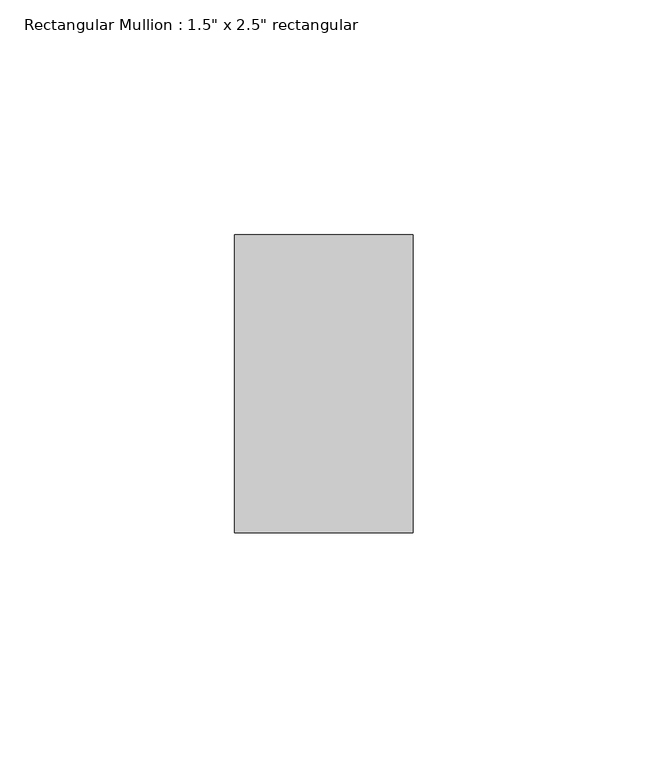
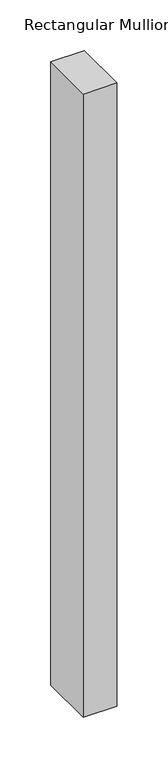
"""IFC4 building model written with IfcOpenShell, lengths in millimetres: member geometry."""

from ifc_helpers import new_model, si_unit, frame, origin, place, context, project, spatial, polyline, outline, extrude, source, transform, mapped, element, save


def member_b45a1477(model_context):
    return source(origin(), model_context, "Body", "SweptSolid", [
        extrude(outline(polyline([(0.0, 31.75), (0.0, -31.75), (-38.1, -31.75), (-38.1, 31.75), (0.0, 31.75)])), frame((0.0, 0.0, -747.5511695), z_axis=(0.0, 0.0, 1.0), x_axis=(1.0, 0.0, 0.0)), (0.0, 0.0, 1.0), 747.5511695),
    ])


if __name__ == "__main__":
    model = new_model("IFC4")
    model_context = context("Model", 3, world=origin())
    ifc_project = project(units=[si_unit("LENGTHUNIT", "METRE", prefix="MILLI")], contexts=[model_context])
    site = spatial("IfcSite", under=ifc_project)
    building = spatial("IfcBuilding", under=site)
    placement = place(None, origin())
    member_shape = member_b45a1477(model_context)
    element("IfcMember", 1, ObjectType="Rectangular Mullion : 1.5\" x 2.5\" rectangular", at=placement, inside=building, context=model_context, shape_type="MappedRepresentation", body=[
        mapped(member_shape, transform((0.0, 0.0, 0.0), x_axis=(1.0, 0.0, 0.0), y_axis=(0.0, 1.0, 0.0), z_axis=(0.0, 0.0, 1.0))),
    ])
    save(model, "model.ifc")
